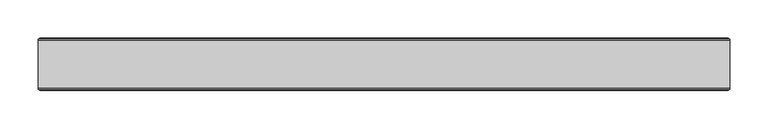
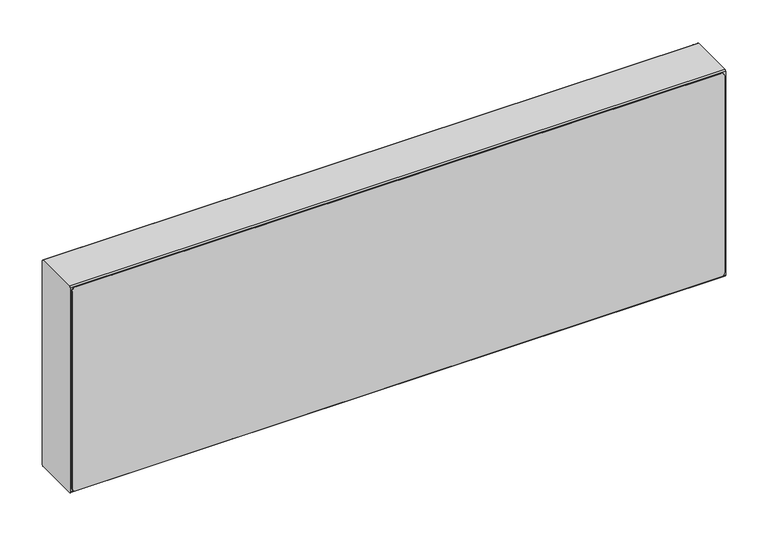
"""IFC4 building model written with IfcOpenShell, lengths in millimetres: proxy geometry, EVRA CV Д : 21-300-900."""

from ifc_helpers import new_model, si_unit, point, frame, frame_2d, origin, place, context, project, spatial, polyline, circle_curve, trimmed, segment, composite_curve, outline, extrude, source, transform, mapped, element, save


def mechanical_equipment_91f7fb6e(model_context):
    return source(origin(), model_context, "Body", "SweptSolid", [
        extrude(outline(composite_curve([segment(polyline([(398.0, 643.0), (398.0, -243.0)]), True, "CONTINUOUS"), segment(trimmed(circle_curve(frame_2d((393.0, -243.0)), 5.0), [point((398.0, -243.0))], [point((393.0, -248.0))], False, "CARTESIAN"), True, "CONTINUOUS"), segment(polyline([(393.0, -248.0), (107.0, -248.0)]), True, "CONTINUOUS"), segment(trimmed(circle_curve(frame_2d((107.0, -243.0)), 5.0), [point((107.0, -248.0))], [point((102.0, -243.0))], False, "CARTESIAN"), True, "CONTINUOUS"), segment(polyline([(102.0, -243.0), (102.0, 643.0)]), True, "CONTINUOUS"), segment(trimmed(circle_curve(frame_2d((107.0, 643.0)), 5.0), [point((102.0, 643.0))], [point((107.0, 648.0))], False, "CARTESIAN"), True, "CONTINUOUS"), segment(polyline([(107.0, 648.0), (393.0, 648.0)]), True, "CONTINUOUS"), segment(trimmed(circle_curve(frame_2d((393.0, 643.0)), 5.0), [point((393.0, 648.0))], [point((398.0, 643.0))], False, "CARTESIAN"), True, "CONTINUOUS")], self_intersect=False)), frame((0.0, 11.4631102, 0.0), z_axis=(0.0, 1.0, 0.0), x_axis=(0.0, 0.0, 1.0)), (0.0, 0.0, 1.0), 1.0),
        extrude(outline(composite_curve([segment(polyline([(398.0, 643.0), (398.0, -243.0)]), True, "CONTINUOUS"), segment(trimmed(circle_curve(frame_2d((393.0, -243.0)), 5.0), [point((398.0, -243.0))], [point((393.0, -248.0))], False, "CARTESIAN"), True, "CONTINUOUS"), segment(polyline([(393.0, -248.0), (107.0, -248.0)]), True, "CONTINUOUS"), segment(trimmed(circle_curve(frame_2d((107.0, -243.0)), 5.0), [point((107.0, -248.0))], [point((102.0, -243.0))], False, "CARTESIAN"), True, "CONTINUOUS"), segment(polyline([(102.0, -243.0), (102.0, 643.0)]), True, "CONTINUOUS"), segment(trimmed(circle_curve(frame_2d((107.0, 643.0)), 5.0), [point((102.0, 643.0))], [point((107.0, 648.0))], False, "CARTESIAN"), True, "CONTINUOUS"), segment(polyline([(107.0, 648.0), (393.0, 648.0)]), True, "CONTINUOUS"), segment(trimmed(circle_curve(frame_2d((393.0, 643.0)), 5.0), [point((393.0, 648.0))], [point((398.0, 643.0))], False, "CARTESIAN"), True, "CONTINUOUS")], self_intersect=False)), frame((0.0, -55.5368898, 0.0), z_axis=(0.0, 1.0, 0.0), x_axis=(0.0, 0.0, 1.0)), (0.0, 0.0, 1.0), 1.0),
        extrude(outline(composite_curve([segment(trimmed(circle_curve(frame_2d((9.4631102, 398.0)), 2.0), [point((9.4631102, 400.0))], [point((11.4631102, 398.0))], False, "CARTESIAN"), True, "CONTINUOUS"), segment(polyline([(11.4631102, 398.0), (11.4631102, 102.0)]), True, "CONTINUOUS"), segment(trimmed(circle_curve(frame_2d((9.4631102, 102.0)), 2.0), [point((11.4631102, 102.0))], [point((9.4631102, 100.0))], False, "CARTESIAN"), True, "CONTINUOUS"), segment(polyline([(9.4631102, 100.0), (-52.5368898, 100.0)]), True, "CONTINUOUS"), segment(trimmed(circle_curve(frame_2d((-52.5368898, 102.0)), 2.0), [point((-52.5368898, 100.0))], [point((-54.5368898, 102.0))], False, "CARTESIAN"), True, "CONTINUOUS"), segment(polyline([(-54.5368898, 102.0), (-54.5368898, 398.0)]), True, "CONTINUOUS"), segment(trimmed(circle_curve(frame_2d((-52.5368898, 398.0)), 2.0), [point((-54.5368898, 398.0))], [point((-52.5368898, 400.0))], False, "CARTESIAN"), True, "CONTINUOUS"), segment(polyline([(-52.5368898, 400.0), (9.4631102, 400.0)]), True, "CONTINUOUS")], self_intersect=False)), frame((-250.0, 0.0, 0.0), z_axis=(1.0, 0.0, 0.0), x_axis=(0.0, 1.0, 0.0)), (0.0, 0.0, 1.0), 900.0),
    ])


if __name__ == "__main__":
    model = new_model("IFC4")
    model_context = context("Model", 3, world=origin())
    ifc_project = project(units=[si_unit("LENGTHUNIT", "METRE", prefix="MILLI")], contexts=[model_context])
    site = spatial("IfcSite", under=ifc_project)
    building = spatial("IfcBuilding", under=site)
    placement = place(None, origin())
    mechanical_equipment_shape = mechanical_equipment_91f7fb6e(model_context)
    element("IfcBuildingElementProxy", 1, Name="EVRA CV Д : 21-300-900", ObjectType="EVRA CV Д : 21-300-900", at=placement, inside=building, context=model_context, shape_type="MappedRepresentation", body=[
        mapped(mechanical_equipment_shape, transform((0.0, 0.0, 0.0), x_axis=(1.0, 0.0, 0.0), y_axis=(0.0, 1.0, 0.0), z_axis=(0.0, 0.0, 1.0))),
    ])
    save(model, "model.ifc")
